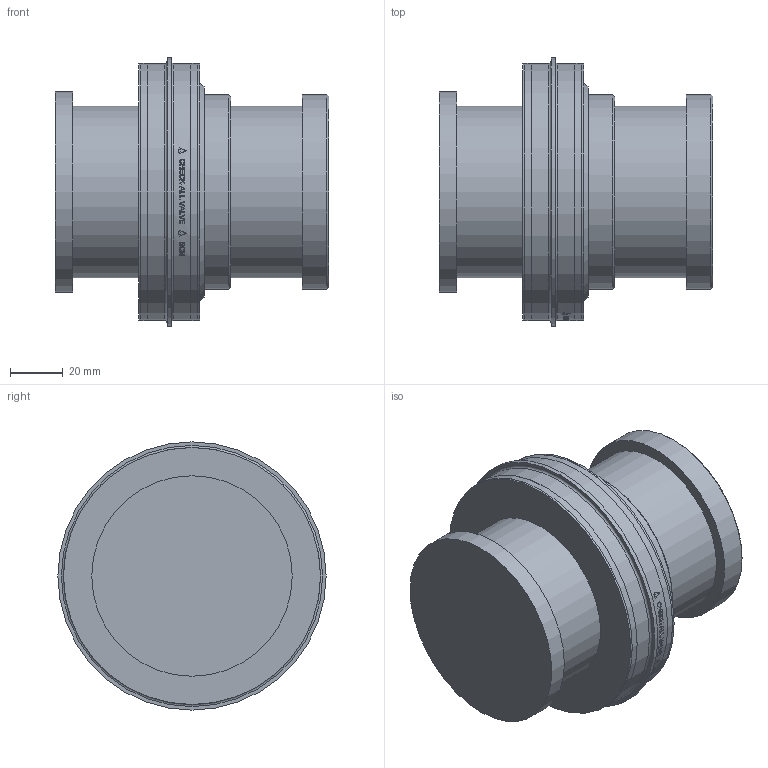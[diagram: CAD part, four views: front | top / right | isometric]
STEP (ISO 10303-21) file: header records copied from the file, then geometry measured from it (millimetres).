
FILE_DESCRIPTION( ( 'Unknown' ), '1' );
FILE_NAME( 'Y:/ENGR/3D Solid Edge Models/SC/SC-PRT/SCN.stp', 'Unknown', ( 'Unknown' ), ( 'Unknown' ), 'PSStep 14.0', 'Unknown', ' ' );
FILE_SCHEMA( ( 'AUTOMOTIVE_DESIGN { 1 0 10303 214 1 1 1 1 }' ) );
Length unit declared in the file: inch
Products named in the file (1): 1
Bounding box: 103.76 x 101.6 x 101.6 mm (x, y, z)
Volume: 471591.7 mm3; surface area: 44620.8 mm2
Topology: 1 solids, 1 shells, 214 faces, 528 edges, 350 vertices
Faces by surface type: plane 122, bspline 51, cylinder 34, cone 5, torus 2
Full cylindrical faces by diameter (mm): 65.023 x1, 65.024 x1, 73.787 x1, 75.946 x1, 97.358 x4, 97.384 x2, 101.6 x1
Entity records: 9570 total; most frequent: CARTESIAN_POINT 3906, ORIENTED_EDGE 1020, EDGE_CURVE 510, B_SPLINE_CURVE_WITH_KNOTS 480, DIRECTION 388, VERTEX_POINT 350, EDGE_LOOP 266, FACE_OUTER_BOUND 227
